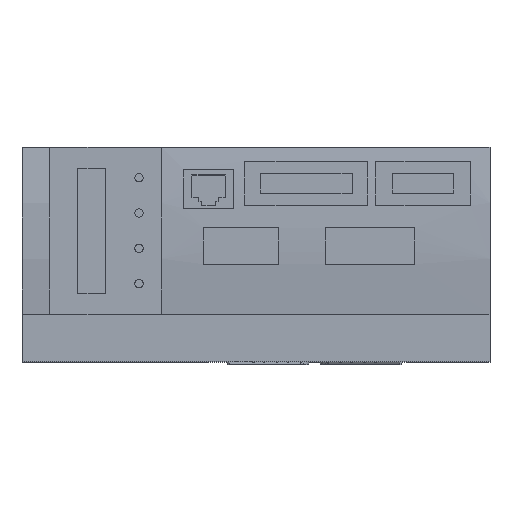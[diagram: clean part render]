
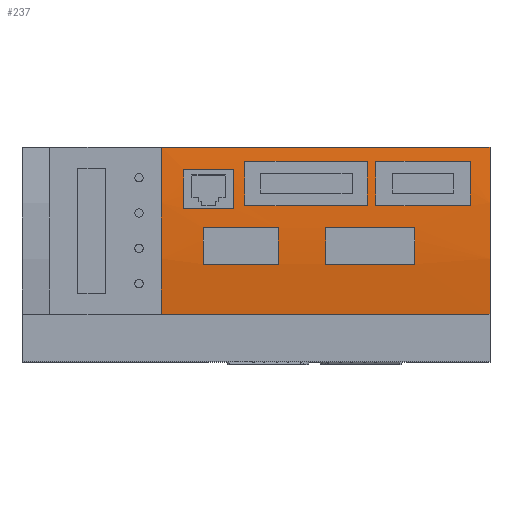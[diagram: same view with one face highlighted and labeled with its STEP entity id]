
A CAD part, top view. The second image highlights one B-rep face of the part: STEP entity #237.
In plain terms, the highlighted cylindrical face has radius 226 mm (diameter 452 mm), a partial arc.
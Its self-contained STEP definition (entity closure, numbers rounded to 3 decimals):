
#237=ADVANCED_FACE('',(#4346,#4348,#4350,#4352,#4354,#4356),#4358,.T.);
#4346=FACE_BOUND('',#4347,.T.);
#4347=EDGE_LOOP('',(#13106,#13107,#13108,#13109));
#4348=FACE_BOUND('',#4349,.T.);
#4349=EDGE_LOOP('',(#13110,#13111,#13112,#13113));
#4350=FACE_BOUND('',#4351,.T.);
#4351=EDGE_LOOP('',(#13114,#13115,#13116,#13117));
#4352=FACE_BOUND('',#4353,.T.);
#4353=EDGE_LOOP('',(#13118,#13119,#13120,#13121));
#4354=FACE_BOUND('',#4355,.T.);
#4355=EDGE_LOOP('',(#13122,#13123,#13124,#13125));
#4356=FACE_BOUND('',#4357,.T.);
#4357=EDGE_LOOP('',(#13126,#13127,#13128,#13129));
#4358=CYLINDRICAL_SURFACE('',#4359,226.);
#4359=AXIS2_PLACEMENT_3D('',#4360,#4361,#4362);
#4360=CARTESIAN_POINT('',(-85.,8.5,-90.));
#4361=DIRECTION('',(-1.,0.,0.));
#4362=DIRECTION('',(0.,-0.133,0.991));
#13106=ORIENTED_EDGE('',*,*,#15591,.F.);
#13107=ORIENTED_EDGE('',*,*,#15583,.F.);
#13108=ORIENTED_EDGE('',*,*,#15582,.T.);
#13109=ORIENTED_EDGE('',*,*,#15672,.F.);
#13110=ORIENTED_EDGE('',*,*,#15731,.F.);
#13111=ORIENTED_EDGE('',*,*,#15732,.F.);
#13112=ORIENTED_EDGE('',*,*,#15733,.F.);
#13113=ORIENTED_EDGE('',*,*,#15734,.F.);
#13114=ORIENTED_EDGE('',*,*,#15735,.F.);
#13115=ORIENTED_EDGE('',*,*,#15736,.F.);
#13116=ORIENTED_EDGE('',*,*,#15737,.F.);
#13117=ORIENTED_EDGE('',*,*,#15738,.F.);
#13118=ORIENTED_EDGE('',*,*,#15739,.F.);
#13119=ORIENTED_EDGE('',*,*,#15740,.F.);
#13120=ORIENTED_EDGE('',*,*,#15741,.F.);
#13121=ORIENTED_EDGE('',*,*,#15742,.F.);
#13122=ORIENTED_EDGE('',*,*,#15743,.F.);
#13123=ORIENTED_EDGE('',*,*,#15744,.F.);
#13124=ORIENTED_EDGE('',*,*,#15745,.F.);
#13125=ORIENTED_EDGE('',*,*,#15746,.F.);
#13126=ORIENTED_EDGE('',*,*,#15747,.F.);
#13127=ORIENTED_EDGE('',*,*,#15748,.F.);
#13128=ORIENTED_EDGE('',*,*,#15749,.F.);
#13129=ORIENTED_EDGE('',*,*,#15750,.F.);
#15582=EDGE_CURVE('',#16891,#16928,#16930,.T.);
#15583=EDGE_CURVE('',#16891,#16893,#16931,.T.);
#15591=EDGE_CURVE('',#16893,#16946,#16947,.T.);
#15672=EDGE_CURVE('',#16946,#16928,#17099,.F.);
#15731=EDGE_CURVE('',#17215,#17216,#17217,.T.);
#15732=EDGE_CURVE('',#17218,#17215,#17219,.F.);
#15733=EDGE_CURVE('',#17220,#17218,#17221,.F.);
#15734=EDGE_CURVE('',#17216,#17220,#17222,.T.);
#15735=EDGE_CURVE('',#17223,#17224,#17225,.T.);
#15736=EDGE_CURVE('',#17226,#17223,#17227,.T.);
#15737=EDGE_CURVE('',#17228,#17226,#17229,.F.);
#15738=EDGE_CURVE('',#17224,#17228,#17230,.F.);
#15739=EDGE_CURVE('',#17231,#17232,#17233,.T.);
#15740=EDGE_CURVE('',#17234,#17231,#17235,.T.);
#15741=EDGE_CURVE('',#17236,#17234,#17237,.F.);
#15742=EDGE_CURVE('',#17232,#17236,#17238,.F.);
#15743=EDGE_CURVE('',#17239,#17240,#17241,.T.);
#15744=EDGE_CURVE('',#17242,#17239,#17243,.T.);
#15745=EDGE_CURVE('',#17244,#17242,#17245,.F.);
#15746=EDGE_CURVE('',#17240,#17244,#17246,.F.);
#15747=EDGE_CURVE('',#17247,#17248,#17249,.T.);
#15748=EDGE_CURVE('',#17250,#17247,#17251,.F.);
#15749=EDGE_CURVE('',#17252,#17250,#17253,.F.);
#15750=EDGE_CURVE('',#17248,#17252,#17254,.T.);
#16891=VERTEX_POINT('',#19073);
#16893=VERTEX_POINT('',#19077);
#16928=VERTEX_POINT('',#19156);
#16930=LINE('',#19160,#19161);
#16931=CIRCLE('',#19163,226.);
#16946=VERTEX_POINT('',#19195);
#16947=LINE('',#19196,#19197);
#17099=CIRCLE('',#19512,226.);
#17215=VERTEX_POINT('',#19747);
#17216=VERTEX_POINT('',#19748);
#17217=LINE('',#19749,#19750);
#17218=VERTEX_POINT('',#19752);
#17219=CIRCLE('',#19753,226.);
#17220=VERTEX_POINT('',#19757);
#17221=LINE('',#19758,#19759);
#17222=CIRCLE('',#19761,226.);
#17223=VERTEX_POINT('',#19765);
#17224=VERTEX_POINT('',#19766);
#17225=CIRCLE('',#19767,226.);
#17226=VERTEX_POINT('',#19771);
#17227=LINE('',#19772,#19773);
#17228=VERTEX_POINT('',#19775);
#17229=CIRCLE('',#19776,226.);
#17230=LINE('',#19780,#19781);
#17231=VERTEX_POINT('',#19783);
#17232=VERTEX_POINT('',#19784);
#17233=CIRCLE('',#19785,226.);
#17234=VERTEX_POINT('',#19789);
#17235=LINE('',#19790,#19791);
#17236=VERTEX_POINT('',#19793);
#17237=CIRCLE('',#19794,226.);
#17238=LINE('',#19798,#19799);
#17239=VERTEX_POINT('',#19801);
#17240=VERTEX_POINT('',#19802);
#17241=CIRCLE('',#19803,226.);
#17242=VERTEX_POINT('',#19807);
#17243=LINE('',#19808,#19809);
#17244=VERTEX_POINT('',#19811);
#17245=CIRCLE('',#19812,226.);
#17246=LINE('',#19816,#19817);
#17247=VERTEX_POINT('',#19819);
#17248=VERTEX_POINT('',#19820);
#17249=LINE('',#19821,#19822);
#17250=VERTEX_POINT('',#19824);
#17251=CIRCLE('',#19825,226.);
#17252=VERTEX_POINT('',#19829);
#17253=LINE('',#19830,#19831);
#17254=CIRCLE('',#19833,226.);
#19073=CARTESIAN_POINT('',(-34.,-21.5,134.));
#19077=CARTESIAN_POINT('',(-34.,38.5,134.));
#19156=CARTESIAN_POINT('',(84.,-21.5,134.));
#19160=CARTESIAN_POINT('',(-34.,-21.5,134.));
#19161=VECTOR('',#19162,1.);
#19162=DIRECTION('',(1.,0.,0.));
#19163=AXIS2_PLACEMENT_3D('',#19164,#19165,#19166);
#19164=CARTESIAN_POINT('',(-34.,8.5,-90.));
#19165=DIRECTION('',(-1.,0.,0.));
#19166=DIRECTION('',(0.,-0.133,0.991));
#19195=CARTESIAN_POINT('',(84.,38.5,134.));
#19196=CARTESIAN_POINT('',(-34.,38.5,134.));
#19197=VECTOR('',#19198,1.);
#19198=DIRECTION('',(1.,0.,0.));
#19512=AXIS2_PLACEMENT_3D('',#19513,#19514,#19515);
#19513=CARTESIAN_POINT('',(84.,8.5,-90.));
#19514=DIRECTION('',(-1.,0.,0.));
#19515=DIRECTION('',(0.,-0.133,0.991));
#19747=CARTESIAN_POINT('',(-26.,16.5,135.858));
#19748=CARTESIAN_POINT('',(-8.,16.5,135.858));
#19749=CARTESIAN_POINT('',(-26.,16.5,135.858));
#19750=VECTOR('',#19751,1.);
#19751=DIRECTION('',(1.,0.,0.));
#19752=CARTESIAN_POINT('',(-26.,30.5,134.927));
#19753=AXIS2_PLACEMENT_3D('',#19754,#19755,#19756);
#19754=CARTESIAN_POINT('',(-26.,8.5,-90.));
#19755=DIRECTION('',(-1.,0.,0.));
#19756=DIRECTION('',(0.,0.035,0.999));
#19757=CARTESIAN_POINT('',(-8.,30.5,134.927));
#19758=CARTESIAN_POINT('',(-26.,30.5,134.927));
#19759=VECTOR('',#19760,1.);
#19760=DIRECTION('',(1.,0.,0.));
#19761=AXIS2_PLACEMENT_3D('',#19762,#19763,#19764);
#19762=CARTESIAN_POINT('',(-8.,8.5,-90.));
#19763=DIRECTION('',(-1.,0.,0.));
#19764=DIRECTION('',(0.,0.035,0.999));
#19765=CARTESIAN_POINT('',(8.,-3.5,135.681));
#19766=CARTESIAN_POINT('',(8.,9.5,135.998));
#19767=AXIS2_PLACEMENT_3D('',#19768,#19769,#19770);
#19768=CARTESIAN_POINT('',(8.,8.5,-90.));
#19769=DIRECTION('',(-1.,0.,0.));
#19770=DIRECTION('',(0.,-0.053,0.999));
#19771=CARTESIAN_POINT('',(-19.,-3.5,135.681));
#19772=CARTESIAN_POINT('',(-19.,-3.5,135.681));
#19773=VECTOR('',#19774,1.);
#19774=DIRECTION('',(1.,0.,0.));
#19775=CARTESIAN_POINT('',(-19.,9.5,135.998));
#19776=AXIS2_PLACEMENT_3D('',#19777,#19778,#19779);
#19777=CARTESIAN_POINT('',(-19.,8.5,-90.));
#19778=DIRECTION('',(-1.,0.,0.));
#19779=DIRECTION('',(0.,-0.053,0.999));
#19780=CARTESIAN_POINT('',(-19.,9.5,135.998));
#19781=VECTOR('',#19782,1.);
#19782=DIRECTION('',(1.,0.,0.));
#19783=CARTESIAN_POINT('',(57.,-3.5,135.681));
#19784=CARTESIAN_POINT('',(57.,9.5,135.998));
#19785=AXIS2_PLACEMENT_3D('',#19786,#19787,#19788);
#19786=CARTESIAN_POINT('',(57.,8.5,-90.));
#19787=DIRECTION('',(-1.,0.,0.));
#19788=DIRECTION('',(0.,-0.053,0.999));
#19789=CARTESIAN_POINT('',(25.,-3.5,135.681));
#19790=CARTESIAN_POINT('',(25.,-3.5,135.681));
#19791=VECTOR('',#19792,1.);
#19792=DIRECTION('',(1.,0.,0.));
#19793=CARTESIAN_POINT('',(25.,9.5,135.998));
#19794=AXIS2_PLACEMENT_3D('',#19795,#19796,#19797);
#19795=CARTESIAN_POINT('',(25.,8.5,-90.));
#19796=DIRECTION('',(-1.,0.,0.));
#19797=DIRECTION('',(0.,-0.053,0.999));
#19798=CARTESIAN_POINT('',(25.,9.5,135.998));
#19799=VECTOR('',#19800,1.);
#19800=DIRECTION('',(1.,0.,0.));
#19801=CARTESIAN_POINT('',(77.,17.5,135.821));
#19802=CARTESIAN_POINT('',(77.,33.5,134.613));
#19803=AXIS2_PLACEMENT_3D('',#19804,#19805,#19806);
#19804=CARTESIAN_POINT('',(77.,8.5,-90.));
#19805=DIRECTION('',(-1.,0.,0.));
#19806=DIRECTION('',(0.,0.04,0.999));
#19807=CARTESIAN_POINT('',(43.,17.5,135.821));
#19808=CARTESIAN_POINT('',(43.,17.5,135.821));
#19809=VECTOR('',#19810,1.);
#19810=DIRECTION('',(1.,0.,0.));
#19811=CARTESIAN_POINT('',(43.,33.5,134.613));
#19812=AXIS2_PLACEMENT_3D('',#19813,#19814,#19815);
#19813=CARTESIAN_POINT('',(43.,8.5,-90.));
#19814=DIRECTION('',(-1.,0.,0.));
#19815=DIRECTION('',(0.,0.04,0.999));
#19816=CARTESIAN_POINT('',(43.,33.5,134.613));
#19817=VECTOR('',#19818,1.);
#19818=DIRECTION('',(1.,0.,0.));
#19819=CARTESIAN_POINT('',(-4.,17.5,135.821));
#19820=CARTESIAN_POINT('',(40.,17.5,135.821));
#19821=CARTESIAN_POINT('',(-4.,17.5,135.821));
#19822=VECTOR('',#19823,1.);
#19823=DIRECTION('',(1.,0.,0.));
#19824=CARTESIAN_POINT('',(-4.,33.5,134.613));
#19825=AXIS2_PLACEMENT_3D('',#19826,#19827,#19828);
#19826=CARTESIAN_POINT('',(-4.,8.5,-90.));
#19827=DIRECTION('',(-1.,0.,0.));
#19828=DIRECTION('',(0.,0.04,0.999));
#19829=CARTESIAN_POINT('',(40.,33.5,134.613));
#19830=CARTESIAN_POINT('',(-4.,33.5,134.613));
#19831=VECTOR('',#19832,1.);
#19832=DIRECTION('',(1.,0.,0.));
#19833=AXIS2_PLACEMENT_3D('',#19834,#19835,#19836);
#19834=CARTESIAN_POINT('',(40.,8.5,-90.));
#19835=DIRECTION('',(-1.,0.,0.));
#19836=DIRECTION('',(0.,0.04,0.999));
